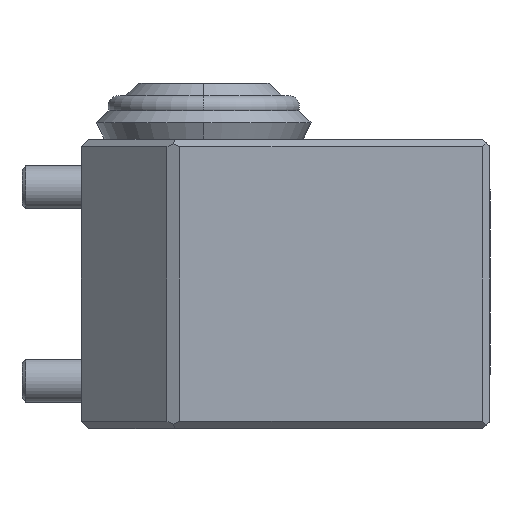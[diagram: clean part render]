
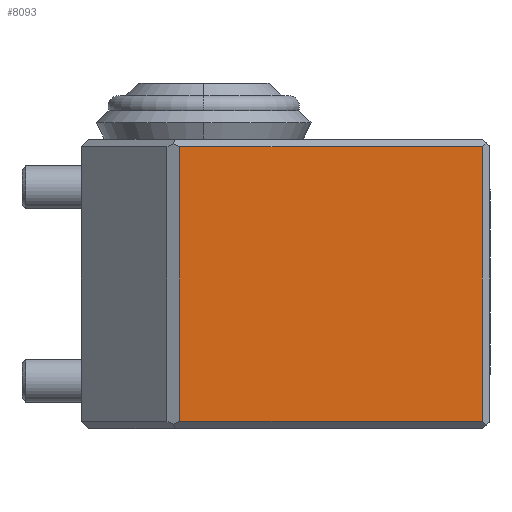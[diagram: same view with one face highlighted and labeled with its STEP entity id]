
A CAD part, left-side view. The second image highlights one B-rep face of the part: STEP entity #8093.
In plain terms, the highlighted planar face has unit normal (-1, 0, 0).
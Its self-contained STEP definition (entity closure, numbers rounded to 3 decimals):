
#324 = LINE ( 'NONE', #12374, #352 ) ;
#352 = VECTOR ( 'NONE', #12354, 1000. ) ;
#1267 = CARTESIAN_POINT ( 'NONE',  ( -51.7, 9.85, -27. ) ) ;
#1483 = ORIENTED_EDGE ( 'NONE', *, *, #7176, .T. ) ;
#2275 = EDGE_LOOP ( 'NONE', ( #13301, #1483, #16587, #13751 ) ) ;
#3426 = VERTEX_POINT ( 'NONE', #16523 ) ;
#3689 = CARTESIAN_POINT ( 'NONE',  ( -51.7, 9.85, -26.3 ) ) ;
#3890 = VECTOR ( 'NONE', #4129, 1000. ) ;
#4101 = EDGE_CURVE ( 'NONE', #12387, #13185, #4137, .T. ) ;
#4129 = DIRECTION ( 'NONE',  ( 0., 0., -1. ) ) ;
#4137 = LINE ( 'NONE', #1267, #3890 ) ;
#4691 = DIRECTION ( 'NONE',  ( 0., 0., 1. ) ) ;
#4696 = DIRECTION ( 'NONE',  ( -1., 0., 0. ) ) ;
#4713 = PLANE ( 'NONE',  #15099 ) ;
#4828 = CARTESIAN_POINT ( 'NONE',  ( -51.7, -19.05, -0.7 ) ) ;
#4945 = CARTESIAN_POINT ( 'NONE',  ( -51.7, -19.05, -27. ) ) ;
#4951 = VERTEX_POINT ( 'NONE', #15043 ) ;
#7176 = EDGE_CURVE ( 'NONE', #13185, #3426, #324, .T. ) ;
#7508 = VECTOR ( 'NONE', #9252, 1000. ) ;
#7569 = LINE ( 'NONE', #4828, #7508 ) ;
#8093 = ADVANCED_FACE ( 'NONE', ( #11485 ), #4713, .T. ) ;
#8531 = CARTESIAN_POINT ( 'NONE',  ( -51.7, 9.85, -0.7 ) ) ;
#9252 = DIRECTION ( 'NONE',  ( 0., 1., 0. ) ) ;
#11176 = DIRECTION ( 'NONE',  ( 0., 0., 1. ) ) ;
#11485 = FACE_OUTER_BOUND ( 'NONE', #2275, .T. ) ;
#11520 = CARTESIAN_POINT ( 'NONE',  ( -51.7, -18.35, -27. ) ) ;
#12032 = EDGE_CURVE ( 'NONE', #3426, #4951, #12930, .T. ) ;
#12354 = DIRECTION ( 'NONE',  ( 0., -1., 0. ) ) ;
#12374 = CARTESIAN_POINT ( 'NONE',  ( -51.7, -19.05, -26.3 ) ) ;
#12387 = VERTEX_POINT ( 'NONE', #8531 ) ;
#12930 = LINE ( 'NONE', #11520, #12972 ) ;
#12972 = VECTOR ( 'NONE', #11176, 1000. ) ;
#13185 = VERTEX_POINT ( 'NONE', #3689 ) ;
#13301 = ORIENTED_EDGE ( 'NONE', *, *, #4101, .T. ) ;
#13751 = ORIENTED_EDGE ( 'NONE', *, *, #14135, .T. ) ;
#14135 = EDGE_CURVE ( 'NONE', #4951, #12387, #7569, .T. ) ;
#15043 = CARTESIAN_POINT ( 'NONE',  ( -51.7, -18.35, -0.7 ) ) ;
#15099 = AXIS2_PLACEMENT_3D ( 'NONE', #4945, #4696, #4691 ) ;
#16523 = CARTESIAN_POINT ( 'NONE',  ( -51.7, -18.35, -26.3 ) ) ;
#16587 = ORIENTED_EDGE ( 'NONE', *, *, #12032, .T. ) ;
